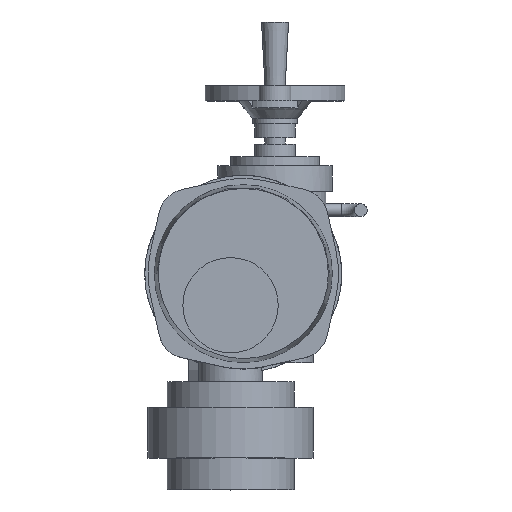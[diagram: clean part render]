
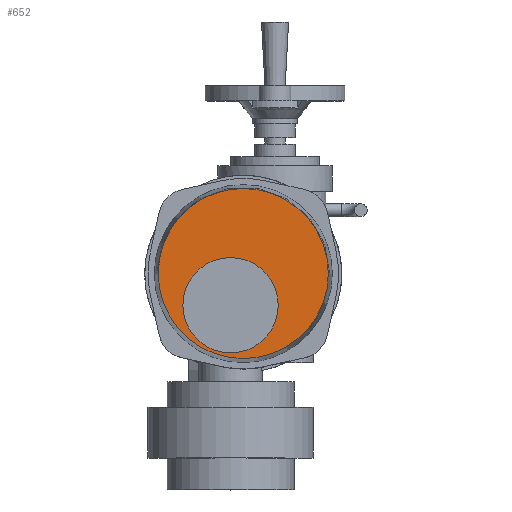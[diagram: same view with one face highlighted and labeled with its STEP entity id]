
A CAD part, top view. The second image highlights one B-rep face of the part: STEP entity #652.
In plain terms, the highlighted planar face has unit normal (0, 0, 1).
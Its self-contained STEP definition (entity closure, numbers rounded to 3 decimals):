
#652=ADVANCED_FACE('',(#7250,#7252),#7254,.T.);
#7250=FACE_BOUND('',#7251,.T.);
#7251=EDGE_LOOP('',(#12407));
#7252=FACE_BOUND('',#7253,.T.);
#7253=EDGE_LOOP('',(#12408));
#7254=PLANE('',#7255);
#7255=AXIS2_PLACEMENT_3D('',#7256,#7257,#7258);
#7256=CARTESIAN_POINT('',(15.,30.,422.));
#7257=DIRECTION('',(0.,0.,1.));
#7258=DIRECTION('',(-1.,0.,0.));
#12407=ORIENTED_EDGE('',*,*,#16415,.T.);
#12408=ORIENTED_EDGE('',*,*,#16418,.F.);
#16415=EDGE_CURVE('',#18621,#18621,#18622,.T.);
#16418=EDGE_CURVE('',#18627,#18627,#18628,.T.);
#18621=VERTEX_POINT('',#23096);
#18622=CIRCLE('',#23097,66.908);
#18627=VERTEX_POINT('',#23111);
#18628=CIRCLE('',#23112,37.5);
#23096=CARTESIAN_POINT('',(-51.908,30.,422.));
#23097=AXIS2_PLACEMENT_3D('',#23098,#23099,#23100);
#23098=CARTESIAN_POINT('',(15.,30.,422.));
#23099=DIRECTION('',(0.,0.,1.));
#23100=DIRECTION('',(-1.,0.,0.));
#23111=CARTESIAN_POINT('',(-32.5,5.,422.));
#23112=AXIS2_PLACEMENT_3D('',#23113,#23114,#23115);
#23113=CARTESIAN_POINT('',(5.,5.,422.));
#23114=DIRECTION('',(0.,0.,1.));
#23115=DIRECTION('',(-1.,0.,0.));
